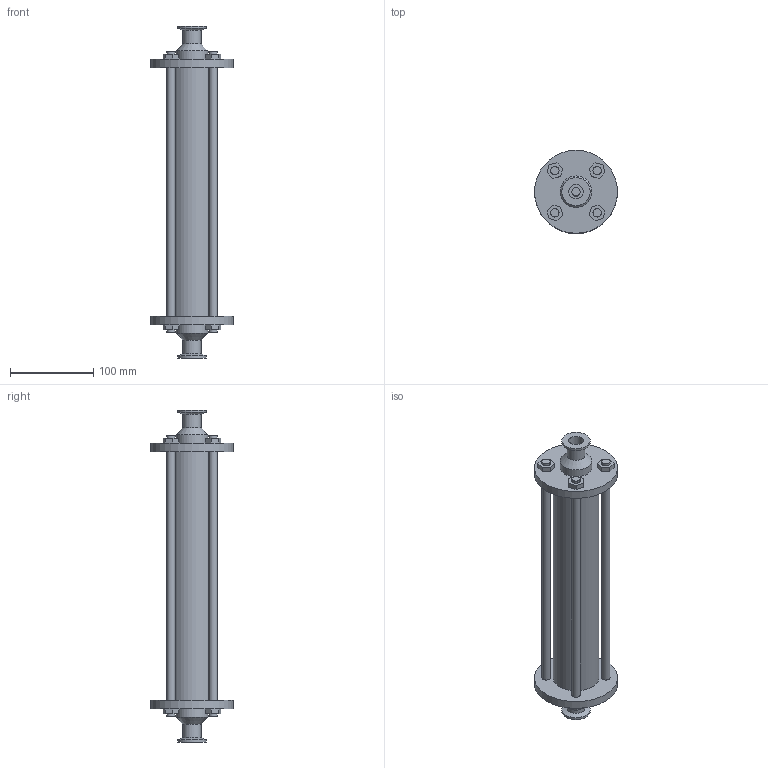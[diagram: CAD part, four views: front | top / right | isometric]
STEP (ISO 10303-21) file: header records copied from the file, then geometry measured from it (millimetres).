
FILE_DESCRIPTION(/* description */ ('流体工業'),/* implementation_level */ '2;1');
FILE_NAME(/* name */ 'C:\Users\Fujimoto-s\OneDrive\Inventor\WorkSpace\\X2\305D306E4ED6\X0\\ホームページ用\\X2\30C030A630F330ED30FC30C97D206750\X0\\サニタリー継手\GTM101DLXIABD\X2\FF0F\X0\EPDM\GTM101DLXIABD／EPDM.stp',/* time_stamp */ '2024-08-09T10:15:45+09:00',/* author */ ('Fujimoto-s'),/* organization */ (''),/* preprocessor_version */ 'ST-DEVELOPER v15.2',/* originating_system */ 'Autodesk Inventor 2014',/* authorisation */ '80～800L/H');
FILE_SCHEMA (('AUTOMOTIVE_DESIGN { 1 0 10303 214 3 1 1 }'));
Length unit declared in the file: millimetre
Products named in the file (1): GTM101DLXIABD／EPDM
Bounding box: 100 x 100 x 400 mm (x, y, z)
Volume: 492650.1 mm3; surface area: 203454.5 mm2
Topology: 2 solids, 2 shells, 215 faces, 550 edges, 364 vertices
Faces by surface type: plane 181, cylinder 29, cone 5
Full cylindrical faces by diameter (mm): 10 x14, 17.5 x2, 21.7 x2, 23 x1, 34 x2, 38.1 x2, 43.495 x1, 49 x1, 55 x1, 100 x2
Entity records: 6479 total; most frequent: DIRECTION 1106, CARTESIAN_POINT 1090, ORIENTED_EDGE 1026, EDGE_CURVE 513, AXIS2_PLACEMENT_3D 377, VERTEX_POINT 361, LINE 352, VECTOR 352
